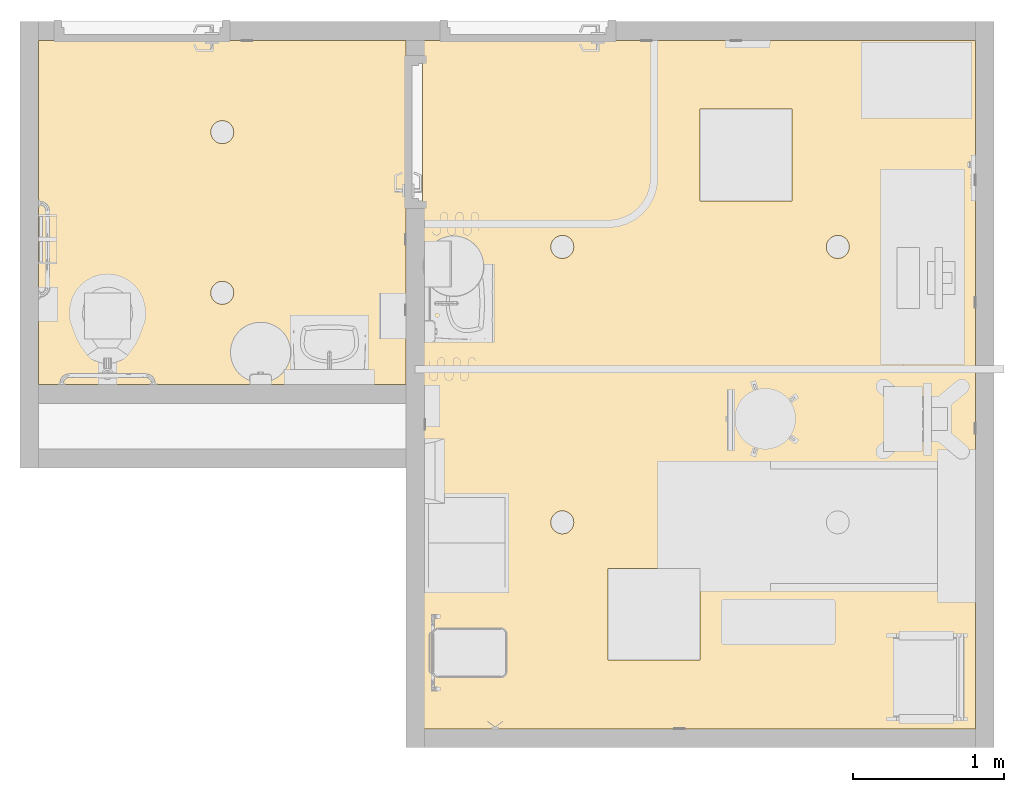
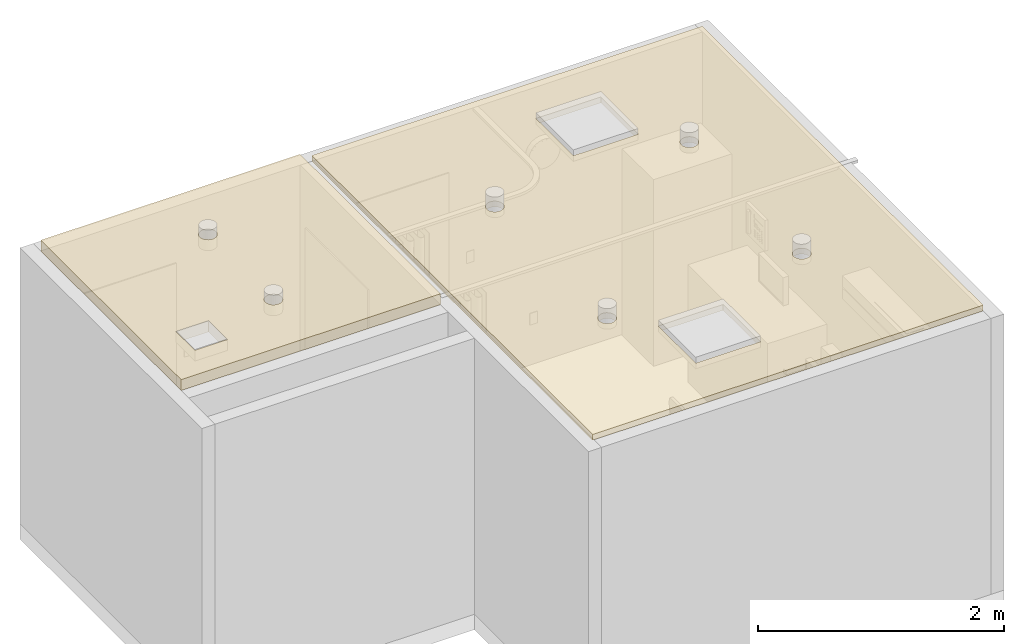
# One storey, part 4 of 14: 2 coverings.
"""IFC2X3 building model written with IfcOpenShell, lengths in feet."""

from ifc_helpers import new_model, entity, si_unit, converted_unit, derived_unit, direction, frame, frame_2d, origin, place, context, subcontext, project, spatial, polyline, circle_curve, parameter, trimmed, segment, composite_curve, outline, extrude, material, layer, layer_set, layer_usage, element, save


model = new_model("IFC2X3")

# Units and contexts
model_context = context("Model", 3, precision=0.0001, world=origin(), true_north=direction((6.12303176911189e-17, 1.0)))
body_context = subcontext(model_context, "Body", "Model", "MODEL_VIEW")
ifc_project = project(units=[converted_unit("LENGTHUNIT", "FOOT", entity("IfcRatioMeasure", 0.3048), si_unit("LENGTHUNIT", "METRE"), dimensions=[1, 0, 0, 0, 0, 0, 0]), converted_unit("AREAUNIT", "SQUARE FOOT", entity("IfcRatioMeasure", 0.09290304), si_unit("AREAUNIT", "SQUARE_METRE"), dimensions=[2, 0, 0, 0, 0, 0, 0]), converted_unit("VOLUMEUNIT", "CUBIC FOOT", entity("IfcRatioMeasure", 0.028316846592), si_unit("VOLUMEUNIT", "CUBIC_METRE"), dimensions=[3, 0, 0, 0, 0, 0, 0]), converted_unit("PLANEANGLEUNIT", "DEGREE", entity("IfcRatioMeasure", 0.0174532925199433), si_unit("PLANEANGLEUNIT", "RADIAN"), dimensions=[0, 0, 0, 0, 0, 0, 0]), si_unit("MASSUNIT", "GRAM", prefix="KILO"), derived_unit("MASSDENSITYUNIT", [(si_unit("MASSUNIT", "GRAM", prefix="KILO"), 1), (si_unit("LENGTHUNIT", "METRE"), -3)]), si_unit("TIMEUNIT", "SECOND"), si_unit("FREQUENCYUNIT", "HERTZ"), si_unit("THERMODYNAMICTEMPERATUREUNIT", "DEGREE_CELSIUS"), derived_unit("THERMALTRANSMITTANCEUNIT", [(si_unit("MASSUNIT", "GRAM", prefix="KILO"), 1), (si_unit("THERMODYNAMICTEMPERATUREUNIT", "KELVIN"), -1), (si_unit("TIMEUNIT", "SECOND"), -3)]), derived_unit("VOLUMETRICFLOWRATEUNIT", [(si_unit("LENGTHUNIT", "METRE"), 3), (si_unit("TIMEUNIT", "SECOND"), -1)]), si_unit("ELECTRICCURRENTUNIT", "AMPERE"), si_unit("ELECTRICVOLTAGEUNIT", "VOLT"), si_unit("POWERUNIT", "WATT"), si_unit("FORCEUNIT", "NEWTON"), si_unit("ILLUMINANCEUNIT", "LUX"), si_unit("LUMINOUSFLUXUNIT", "LUMEN"), si_unit("LUMINOUSINTENSITYUNIT", "CANDELA"), derived_unit("USERDEFINED", [(si_unit("MASSUNIT", "GRAM", prefix="KILO"), -1), (si_unit("LENGTHUNIT", "METRE"), -2), (si_unit("TIMEUNIT", "SECOND"), 3), (si_unit("LUMINOUSFLUXUNIT", "LUMEN"), 1)]), derived_unit("LINEARVELOCITYUNIT", [(si_unit("LENGTHUNIT", "METRE"), 1), (si_unit("TIMEUNIT", "SECOND"), -1)]), si_unit("PRESSUREUNIT", "PASCAL"), derived_unit("USERDEFINED", [(si_unit("LENGTHUNIT", "METRE"), -2), (si_unit("MASSUNIT", "GRAM", prefix="KILO"), 1), (si_unit("TIMEUNIT", "SECOND"), -2)])], contexts=[model_context])

# Site, building, storey
site_placement = place(None, origin())
site = spatial("IfcSite", under=ifc_project, at=site_placement, Name="Default", CompositionType="ELEMENT")
building_placement = place(site_placement, origin())
building = spatial("IfcBuilding", under=site, at=building_placement, Name="OUTPATIENT / PACT CLINIC (Ch. 265)", CompositionType="ELEMENT")
storey_placement = place(building_placement, origin())
storey = spatial("IfcBuildingStorey", under=building, at=storey_placement, Name="DATUM", CompositionType="ELEMENT", Elevation=0.0)

# Coverings
ifc_material_1 = material(Name="<Unnamed>")
ifc_layer_1 = layer(ifc_material_1, 0.135416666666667)
ifc_material_2 = material(Name="Acoustic Ceiling Tile 24 x 24")
ifc_layer_2 = layer(ifc_material_2, 0.0520833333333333)
ifc_layer_set_1 = layer_set([ifc_layer_1, ifc_layer_2], Name="Compound Ceiling:2' x 2' ACT System")
ifc_layer_usage_1 = layer_usage(ifc_layer_set_1, "AXIS3", "POSITIVE", 0.0)
covering_1_placement = place(storey_placement, origin())
element("IfcCovering", 1, at=covering_1_placement, inside=storey, material=ifc_layer_usage_1, Name="Compound Ceiling:2' x 2' ACT System", ObjectType="Compound Ceiling:2' x 2' ACT System", PredefinedType="CEILING", context=body_context, shape_type="SweptSolid", body=[
    extrude(outline(polyline([(-6.02323086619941, -7.5), (6.02323086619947, -7.5), (6.02323086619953, 7.5), (-6.02323086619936, 7.5), (-6.02323086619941, -7.5)]), holes=[composite_curve([segment(trimmed(circle_curve(frame_2d((3.02323086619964, 3.0), x_axis=(1.0, 0.0)), 0.25), [parameter(180.0)], [parameter(2.03555499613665e-13)], True, "PARAMETER"), False, "CONTINUOUS"), segment(trimmed(circle_curve(frame_2d((3.02323086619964, 3.0), x_axis=(1.0, 0.0)), 0.25), [parameter(2.03555499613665e-13)], [parameter(180.0)], True, "PARAMETER"), False, "CONTINUOUS")], self_intersect=False), composite_curve([segment(trimmed(circle_curve(frame_2d((3.02323086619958, -3.0), x_axis=(1.0, 0.0)), 0.25), [parameter(180.0)], [parameter(1.01777749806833e-13)], True, "PARAMETER"), False, "CONTINUOUS"), segment(trimmed(circle_curve(frame_2d((3.02323086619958, -3.0), x_axis=(1.0, 0.0)), 0.25), [parameter(1.01777749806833e-13)], [parameter(180.0)], True, "PARAMETER"), False, "CONTINUOUS")], self_intersect=False), composite_curve([segment(trimmed(circle_curve(frame_2d((-2.97676913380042, -3.0), x_axis=(1.0, 0.0)), 0.25), [parameter(180.0)], [parameter(1.01777749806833e-13)], True, "PARAMETER"), False, "CONTINUOUS"), segment(trimmed(circle_curve(frame_2d((-2.97676913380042, -3.0), x_axis=(1.0, 0.0)), 0.25), [parameter(1.01777749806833e-13)], [parameter(180.0)], True, "PARAMETER"), False, "CONTINUOUS")], self_intersect=False), polyline([(-1.97676913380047, -6.0), (-1.97676913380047, -4.0), (0.0232308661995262, -4.0), (0.0232308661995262, -6.0), (-1.97676913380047, -6.0)]), composite_curve([segment(trimmed(circle_curve(frame_2d((-2.97676913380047, 3.0), x_axis=(1.0, 0.0)), 0.25), [parameter(180.0)], [parameter(2.03555499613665e-13)], True, "PARAMETER"), False, "CONTINUOUS"), segment(trimmed(circle_curve(frame_2d((-2.97676913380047, 3.0), x_axis=(1.0, 0.0)), 0.25), [parameter(2.03555499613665e-13)], [parameter(180.0)], True, "PARAMETER"), False, "CONTINUOUS")], self_intersect=False), polyline([(0.0232308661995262, 4.0), (0.0232308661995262, 6.0), (2.02323086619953, 6.0), (2.02323086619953, 4.0), (0.0232308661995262, 4.0)])]), frame((338.614462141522, -850.593724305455, 9.0)), (0.0, 0.0, 1.0), 0.1875),
])
ifc_layer_3 = layer(ifc_material_1, 0.302083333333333)
ifc_material_3 = material(Name="gyp ceiling")
ifc_layer_4 = layer(ifc_material_3, 0.0520833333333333)
ifc_layer_set_2 = layer_set([ifc_layer_3, ifc_layer_4], Name="Compound Ceiling:GWB on Mtl. Stud")
ifc_layer_usage_2 = layer_usage(ifc_layer_set_2, "AXIS3", "POSITIVE", 0.0)
covering_2_placement = place(storey_placement, origin())
element("IfcCovering", 2, at=covering_2_placement, inside=storey, material=ifc_layer_usage_2, Name="Compound Ceiling:GWB on Mtl. Stud", ObjectType="Compound Ceiling:GWB on Mtl. Stud", PredefinedType="CEILING", context=body_context, shape_type="SweptSolid", body=[
    extrude(outline(polyline([(-3.75, -4.0), (3.74999999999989, -4.0), (3.74999999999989, 4.0), (-3.75, 4.0), (-3.75, -4.0)]), holes=[composite_curve([segment(trimmed(circle_curve(frame_2d((-1.75, 0.0), x_axis=(0.0, 1.0)), 0.25), [parameter(180.0)], [parameter(0.0)], True, "PARAMETER"), False, "CONTINUOUS"), segment(trimmed(circle_curve(frame_2d((-1.75, 0.0), x_axis=(0.0, 1.0)), 0.25), [parameter(0.0)], [parameter(180.0)], True, "PARAMETER"), False, "CONTINUOUS")], self_intersect=False), composite_curve([segment(trimmed(circle_curve(frame_2d((1.74999999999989, 0.0), x_axis=(0.0, 1.0)), 0.25), [parameter(180.0)], [parameter(0.0)], True, "PARAMETER"), False, "CONTINUOUS"), segment(trimmed(circle_curve(frame_2d((1.74999999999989, 0.0), x_axis=(0.0, 1.0)), 0.25), [parameter(0.0)], [parameter(180.0)], True, "PARAMETER"), False, "CONTINUOUS")], self_intersect=False), polyline([(2.74999999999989, -2.0), (2.74999999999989, -3.0), (1.74999999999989, -3.0), (1.74999999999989, -2.0), (2.74999999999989, -2.0)])]), frame((328.231443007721, -846.843724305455, 9.0), z_axis=(0.0, 0.0, 1.0), x_axis=(0.0, -1.0, 0.0)), (0.0, 0.0, 1.0), 0.354166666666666),
])

save(model, "model.ifc")
